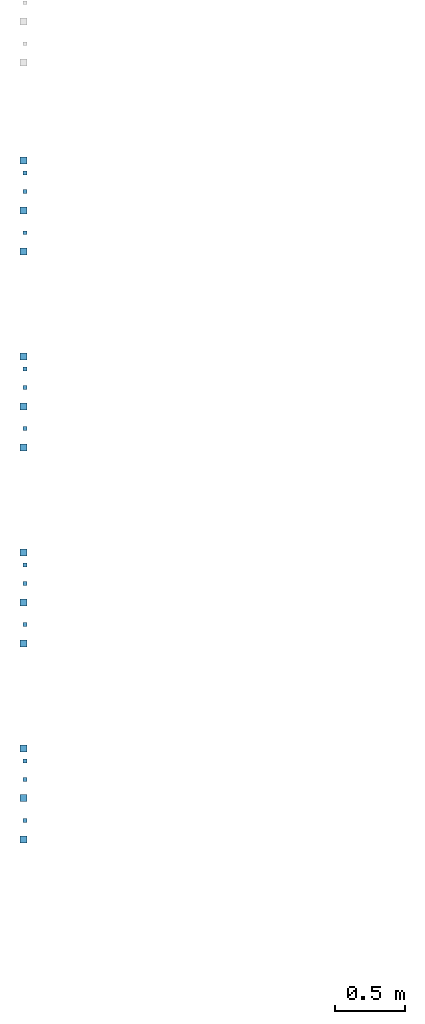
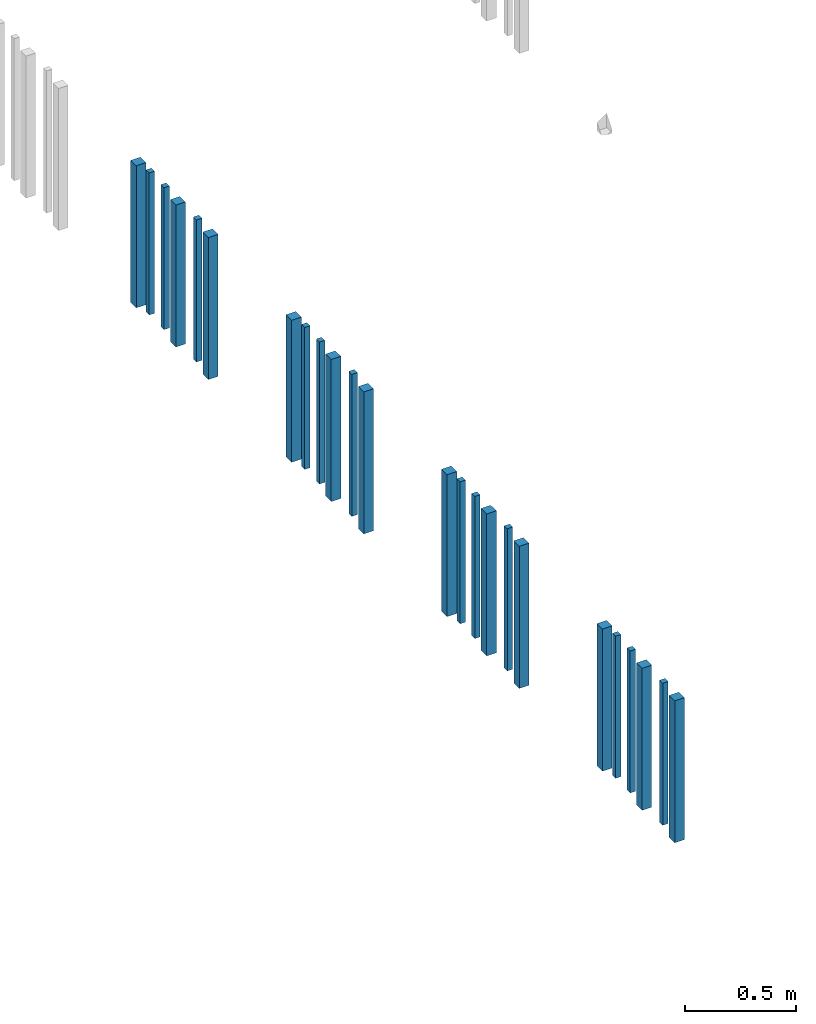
# One storey, part 83 of 124: 24 walls.
"""IFC2X3 building model written with IfcOpenShell, lengths in millimetres."""

from ifc_helpers import new_model, entity, si_unit, converted_unit, derived_unit, money_unit, direction, frame, origin_with_axes, place, context, subcontext, project, spatial, faceted_brep, material, type_object, element, save


model = new_model("IFC2X3")

# Units and contexts
model_context = context("Model", 3, precision=1e-05, world=origin_with_axes(), true_north=direction((0.0, 1.0)))
body_context = subcontext(model_context, "Body", "Model", "MODEL_VIEW")
ifc_project = project(units=[si_unit("LENGTHUNIT", "METRE", prefix="MILLI"), si_unit("AREAUNIT", "SQUARE_METRE"), si_unit("VOLUMEUNIT", "CUBIC_METRE"), converted_unit("PLANEANGLEUNIT", "DEGREE", entity("IfcPlaneAngleMeasure", 0.0174532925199), si_unit("PLANEANGLEUNIT", "RADIAN"), dimensions=[0, 0, 0, 0, 0, 0, 0]), si_unit("SOLIDANGLEUNIT", "STERADIAN"), money_unit("EUR"), converted_unit("TIMEUNIT", "Year", entity("IfcTimeMeasure", 31556926.0), si_unit("TIMEUNIT", "SECOND"), dimensions=[0, 0, 1, 0, 0, 0, 0]), si_unit("MASSUNIT", "GRAM", prefix="KILO"), si_unit("THERMODYNAMICTEMPERATUREUNIT", "DEGREE_CELSIUS"), si_unit("LUMINOUSINTENSITYUNIT", "LUMEN"), si_unit("ENERGYUNIT", "JOULE", prefix="MEGA"), derived_unit("THERMALCONDUCTANCEUNIT", [(si_unit("POWERUNIT", "WATT"), 1), (si_unit("LENGTHUNIT", "METRE"), -1), (si_unit("THERMODYNAMICTEMPERATUREUNIT", "KELVIN"), -1)]), derived_unit("SPECIFICHEATCAPACITYUNIT", [(si_unit("ENERGYUNIT", "JOULE"), 1), (si_unit("MASSUNIT", "GRAM", prefix="KILO"), -1), (si_unit("THERMODYNAMICTEMPERATUREUNIT", "KELVIN"), -1)]), derived_unit("MASSDENSITYUNIT", [(si_unit("MASSUNIT", "GRAM", prefix="KILO"), 1), (si_unit("VOLUMEUNIT", "CUBIC_METRE"), -1)])], contexts=[model_context])

# Site, building, storey
site_placement = place(None, origin_with_axes())
site = spatial("IfcSite", under=ifc_project, at=site_placement, Name="Site", CompositionType="ELEMENT")
building_placement = place(site_placement, origin_with_axes())
building = spatial("IfcBuilding", under=site, at=building_placement, Name="Building", CompositionType="ELEMENT")
storey_placement = place(building_placement, frame((0.0, 0.0, -1615.0), z_axis=(0.0, 0.0, 1.0), x_axis=(1.0, 0.0, 0.0)))
storey = spatial("IfcBuildingStorey", under=building, at=storey_placement, Name="0  korrus", CompositionType="ELEMENT", Elevation=-1615.0)

# Walls
ifc_material = material(Name="Site specified")
wall_type = type_object("IfcWallType", Name="Puitfassaadi ribistik", PredefinedType="NOTDEFINED")
for number, where, z_axis, x_axis, name in (
    (1, (122398.99997, 60676.0206584, 6039.99966101), (0.0, 0.0, 1.0), (-5.16795809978e-08, 1.0, 0.0), "Site specified"),
    (2, (122398.999977, 60543.0206593, 6039.99966101), (0.0, 0.0, 1.0), (-5.16795809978e-08, 1.0, 0.0), "Site specified"),
):
    element("IfcWall", number, at=place(storey_placement, frame(where, z_axis=z_axis, x_axis=x_axis)), inside=storey, type_object=wall_type, material=ifc_material, Name=name, context=body_context, shape_type="Brep", body=[
        faceted_brep([(14.0, 14.0, 781.000338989), (14.0, 14.0, 0.0), (-14.0, 14.0, 0.0), (-14.0, 14.0, 781.000338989), (14.0, -14.0, 781.000338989), (14.0, -14.0, 0.0), (-14.0, -14.0, 0.0), (-14.0, -14.0, 781.000338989)], [[[0, 1, 2, 3]], [[4, 5, 1, 0]], [[2, 1, 5, 6]], [[3, 2, 6, 7]], [[4, 0, 3, 7]], [[7, 6, 5, 4]]]),
    ])
for number, where, z_axis, x_axis, name in (
    (3, (122387.999965, 60765.0238283, 6039.99966101), (0.0, 0.0, 1.0), (-5.16795809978e-08, 1.0, 0.0), "Site specified"),
    (4, (122387.999984, 60409.018195, 6039.99966101), (0.0, 0.0, 1.0), (-5.16795809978e-08, 1.0, 0.0), "Site specified"),
):
    element("IfcWall", number, at=place(storey_placement, frame(where, z_axis=z_axis, x_axis=x_axis)), inside=storey, type_object=wall_type, material=ifc_material, Name=name, context=body_context, shape_type="Brep", body=[
        faceted_brep([(25.0, 25.0, 781.000338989), (25.0, 25.0, 0.0), (-25.0, 25.0, 0.0), (-25.0, 25.0, 781.000338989), (25.0, -25.0, 781.000338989), (25.0, -25.0, 0.0), (-25.0, -25.0, 0.0), (-25.0, -25.0, 781.000338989)], [[[0, 1, 2, 3]], [[4, 5, 1, 0]], [[2, 1, 5, 6]], [[3, 2, 6, 7]], [[4, 0, 3, 7]], [[7, 6, 5, 4]]]),
    ])
wall_1_placement = place(storey_placement, frame((122398.999992, 60250.0206882, 6039.99966101), z_axis=(0.0, 0.0, 1.0), x_axis=(-5.16795809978e-08, 1.0, 0.0)))
element("IfcWall", 5, at=wall_1_placement, inside=storey, type_object=wall_type, material=ifc_material, Name="Site specified", context=body_context, shape_type="Brep", body=[
    faceted_brep([(14.0, 14.0, 781.000338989), (14.0, 14.0, 0.0), (-14.0, 14.0, 0.0), (-14.0, 14.0, 781.000338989), (14.0, -14.0, 781.000338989), (14.0, -14.0, 0.0), (-14.0, -14.0, 0.0), (-14.0, -14.0, 781.000338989)], [[[0, 1, 2, 3]], [[4, 5, 1, 0]], [[2, 1, 5, 6]], [[3, 2, 6, 7]], [[4, 0, 3, 7]], [[7, 6, 5, 4]]]),
])
wall_2_placement = place(storey_placement, frame((122387.999999, 60115.0181971, 6039.99966101), z_axis=(0.0, 0.0, 1.0), x_axis=(-5.16795809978e-08, 1.0, 0.0)))
element("IfcWall", 6, at=wall_2_placement, inside=storey, type_object=wall_type, material=ifc_material, Name="Site specified", context=body_context, shape_type="Brep", body=[
    faceted_brep([(25.0, 25.0, 781.000338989), (25.0, 25.0, 0.0), (-25.0, 25.0, 0.0), (-25.0, 25.0, 781.000338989), (25.0, -25.0, 781.000338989), (25.0, -25.0, 0.0), (-25.0, -25.0, 0.0), (-25.0, -25.0, 781.000338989)], [[[0, 1, 2, 3]], [[4, 5, 1, 0]], [[2, 1, 5, 6]], [[3, 2, 6, 7]], [[4, 0, 3, 7]], [[7, 6, 5, 4]]]),
])
for number, where, z_axis, x_axis, name in (
    (7, (122398.99997, 59276.0206584, 6039.99966101), (0.0, 0.0, 1.0), (-5.16795809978e-08, 1.0, 0.0), "Site specified"),
    (8, (122398.999977, 59143.0206593, 6039.99966101), (0.0, 0.0, 1.0), (-5.16795809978e-08, 1.0, 0.0), "Site specified"),
):
    element("IfcWall", number, at=place(storey_placement, frame(where, z_axis=z_axis, x_axis=x_axis)), inside=storey, type_object=wall_type, material=ifc_material, Name=name, context=body_context, shape_type="Brep", body=[
        faceted_brep([(14.0, 14.0, 781.000338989), (14.0, 14.0, 0.0), (-14.0, 14.0, 0.0), (-14.0, 14.0, 781.000338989), (14.0, -14.0, 781.000338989), (14.0, -14.0, 0.0), (-14.0, -14.0, 0.0), (-14.0, -14.0, 781.000338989)], [[[0, 1, 2, 3]], [[4, 5, 1, 0]], [[2, 1, 5, 6]], [[3, 2, 6, 7]], [[4, 0, 3, 7]], [[7, 6, 5, 4]]]),
    ])
for number, where, z_axis, x_axis, name in (
    (9, (122387.999965, 59365.0238283, 6039.99966101), (0.0, 0.0, 1.0), (-5.16795809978e-08, 1.0, 0.0), "Site specified"),
    (10, (122387.999984, 59009.018195, 6039.99966101), (0.0, 0.0, 1.0), (-5.16795809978e-08, 1.0, 0.0), "Site specified"),
):
    element("IfcWall", number, at=place(storey_placement, frame(where, z_axis=z_axis, x_axis=x_axis)), inside=storey, type_object=wall_type, material=ifc_material, Name=name, context=body_context, shape_type="Brep", body=[
        faceted_brep([(25.0, 25.0, 781.000338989), (25.0, 25.0, 0.0), (-25.0, 25.0, 0.0), (-25.0, 25.0, 781.000338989), (25.0, -25.0, 781.000338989), (25.0, -25.0, 0.0), (-25.0, -25.0, 0.0), (-25.0, -25.0, 781.000338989)], [[[0, 1, 2, 3]], [[4, 5, 1, 0]], [[2, 1, 5, 6]], [[3, 2, 6, 7]], [[4, 0, 3, 7]], [[7, 6, 5, 4]]]),
    ])
wall_3_placement = place(storey_placement, frame((122398.999992, 58850.0206882, 6039.99966101), z_axis=(0.0, 0.0, 1.0), x_axis=(-5.16795809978e-08, 1.0, 0.0)))
element("IfcWall", 11, at=wall_3_placement, inside=storey, type_object=wall_type, material=ifc_material, Name="Site specified", context=body_context, shape_type="Brep", body=[
    faceted_brep([(14.0, 14.0, 781.000338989), (14.0, 14.0, 0.0), (-14.0, 14.0, 0.0), (-14.0, 14.0, 781.000338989), (14.0, -14.0, 781.000338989), (14.0, -14.0, 0.0), (-14.0, -14.0, 0.0), (-14.0, -14.0, 781.000338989)], [[[0, 1, 2, 3]], [[4, 5, 1, 0]], [[2, 1, 5, 6]], [[3, 2, 6, 7]], [[4, 0, 3, 7]], [[7, 6, 5, 4]]]),
])
for number, where, z_axis, x_axis, name in (
    (12, (122387.999999, 58715.0181971, 6039.99966101), (0.0, 0.0, 1.0), (-5.16795809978e-08, 1.0, 0.0), "Site specified"),
    (13, (122387.999999, 57315.0181971, 6039.99966101), (0.0, 0.0, 1.0), (-5.16795809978e-08, 1.0, 0.0), "Site specified"),
):
    element("IfcWall", number, at=place(storey_placement, frame(where, z_axis=z_axis, x_axis=x_axis)), inside=storey, type_object=wall_type, material=ifc_material, Name=name, context=body_context, shape_type="Brep", body=[
        faceted_brep([(25.0, 25.0, 781.000338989), (25.0, 25.0, 0.0), (-25.0, 25.0, 0.0), (-25.0, 25.0, 781.000338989), (25.0, -25.0, 781.000338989), (25.0, -25.0, 0.0), (-25.0, -25.0, 0.0), (-25.0, -25.0, 781.000338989)], [[[0, 1, 2, 3]], [[4, 5, 1, 0]], [[2, 1, 5, 6]], [[3, 2, 6, 7]], [[4, 0, 3, 7]], [[7, 6, 5, 4]]]),
    ])
for number, where, z_axis, x_axis, name in (
    (14, (122398.999992, 57450.0206882, 6039.99966101), (0.0, 0.0, 1.0), (-5.16795809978e-08, 1.0, 0.0), "Site specified"),
    (15, (122398.99997, 57876.0206584, 6039.99966101), (0.0, 0.0, 1.0), (-5.16795809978e-08, 1.0, 0.0), "Site specified"),
):
    element("IfcWall", number, at=place(storey_placement, frame(where, z_axis=z_axis, x_axis=x_axis)), inside=storey, type_object=wall_type, material=ifc_material, Name=name, context=body_context, shape_type="Brep", body=[
        faceted_brep([(14.0, 14.0, 781.000338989), (14.0, 14.0, 0.0), (-14.0, 14.0, 0.0), (-14.0, 14.0, 781.000338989), (14.0, -14.0, 781.000338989), (14.0, -14.0, 0.0), (-14.0, -14.0, 0.0), (-14.0, -14.0, 781.000338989)], [[[0, 1, 2, 3]], [[4, 5, 1, 0]], [[2, 1, 5, 6]], [[3, 2, 6, 7]], [[4, 0, 3, 7]], [[7, 6, 5, 4]]]),
    ])
wall_4_placement = place(storey_placement, frame((122387.999966, 57965.0238283, 6039.99966101), z_axis=(0.0, 0.0, 1.0), x_axis=(-5.16795809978e-08, 1.0, 0.0)))
element("IfcWall", 16, at=wall_4_placement, inside=storey, type_object=wall_type, material=ifc_material, Name="Site specified", context=body_context, shape_type="Brep", body=[
    faceted_brep([(25.0, 25.0, 781.000338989), (25.0, 25.0, 0.0), (-25.0, 25.0, 0.0), (-25.0, 25.0, 781.000338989), (25.0, -25.0, 781.000338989), (25.0, -25.0, 0.0), (-25.0, -25.0, 0.0), (-25.0, -25.0, 781.000338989)], [[[0, 1, 2, 3]], [[4, 5, 1, 0]], [[2, 1, 5, 6]], [[3, 2, 6, 7]], [[4, 0, 3, 7]], [[7, 6, 5, 4]]]),
])
wall_5_placement = place(storey_placement, frame((122398.999977, 57743.0206593, 6039.99966101), z_axis=(0.0, 0.0, 1.0), x_axis=(-5.16795809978e-08, 1.0, 0.0)))
element("IfcWall", 17, at=wall_5_placement, inside=storey, type_object=wall_type, material=ifc_material, Name="Site specified", context=body_context, shape_type="Brep", body=[
    faceted_brep([(14.0, 14.0, 781.000338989), (14.0, 14.0, 0.0), (-14.0, 14.0, 0.0), (-14.0, 14.0, 781.000338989), (14.0, -14.0, 781.000338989), (14.0, -14.0, 0.0), (-14.0, -14.0, 0.0), (-14.0, -14.0, 781.000338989)], [[[0, 1, 2, 3]], [[4, 5, 1, 0]], [[2, 1, 5, 6]], [[3, 2, 6, 7]], [[4, 0, 3, 7]], [[7, 6, 5, 4]]]),
])
for number, where, z_axis, x_axis, name in (
    (18, (122387.999984, 57609.018195, 6039.99966101), (0.0, 0.0, 1.0), (-5.16795809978e-08, 1.0, 0.0), "Site specified"),
    (19, (122387.999999, 61515.0185262, 6039.99966101), (0.0, 0.0, 1.0), (-5.16795809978e-08, 1.0, 0.0), "Site specified"),
):
    element("IfcWall", number, at=place(storey_placement, frame(where, z_axis=z_axis, x_axis=x_axis)), inside=storey, type_object=wall_type, material=ifc_material, Name=name, context=body_context, shape_type="Brep", body=[
        faceted_brep([(25.0, 25.0, 781.000338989), (25.0, 25.0, 0.0), (-25.0, 25.0, 0.0), (-25.0, 25.0, 781.000338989), (25.0, -25.0, 781.000338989), (25.0, -25.0, 0.0), (-25.0, -25.0, 0.0), (-25.0, -25.0, 781.000338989)], [[[0, 1, 2, 3]], [[4, 5, 1, 0]], [[2, 1, 5, 6]], [[3, 2, 6, 7]], [[4, 0, 3, 7]], [[7, 6, 5, 4]]]),
    ])
for number, where, z_axis, x_axis, name in (
    (20, (122398.999992, 61650.0210172, 6039.99966101), (0.0, 0.0, 1.0), (-5.16795809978e-08, 1.0, 0.0), "Site specified"),
    (21, (122398.99997, 62076.0209875, 6039.99966101), (0.0, 0.0, 1.0), (-5.16795809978e-08, 1.0, 0.0), "Site specified"),
    (22, (122398.999977, 61943.0209883, 6039.99966101), (0.0, 0.0, 1.0), (-5.16795809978e-08, 1.0, 0.0), "Site specified"),
):
    element("IfcWall", number, at=place(storey_placement, frame(where, z_axis=z_axis, x_axis=x_axis)), inside=storey, type_object=wall_type, material=ifc_material, Name=name, context=body_context, shape_type="Brep", body=[
        faceted_brep([(14.0, 14.0, 781.000338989), (14.0, 14.0, 0.0), (-14.0, 14.0, 0.0), (-14.0, 14.0, 781.000338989), (14.0, -14.0, 781.000338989), (14.0, -14.0, 0.0), (-14.0, -14.0, 0.0), (-14.0, -14.0, 781.000338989)], [[[0, 1, 2, 3]], [[4, 5, 1, 0]], [[2, 1, 5, 6]], [[3, 2, 6, 7]], [[4, 0, 3, 7]], [[7, 6, 5, 4]]]),
    ])
for number, where, z_axis, x_axis, name in (
    (23, (122387.999965, 62165.0241573, 6039.99966101), (0.0, 0.0, 1.0), (-5.16795809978e-08, 1.0, 0.0), "Site specified"),
    (24, (122387.999984, 61809.018524, 6039.99966101), (0.0, 0.0, 1.0), (-5.16795809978e-08, 1.0, 0.0), "Site specified"),
):
    element("IfcWall", number, at=place(storey_placement, frame(where, z_axis=z_axis, x_axis=x_axis)), inside=storey, type_object=wall_type, material=ifc_material, Name=name, context=body_context, shape_type="Brep", body=[
        faceted_brep([(25.0, 25.0, 781.000338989), (25.0, 25.0, 0.0), (-25.0, 25.0, 0.0), (-25.0, 25.0, 781.000338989), (25.0, -25.0, 781.000338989), (25.0, -25.0, 0.0), (-25.0, -25.0, 0.0), (-25.0, -25.0, 781.000338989)], [[[0, 1, 2, 3]], [[4, 5, 1, 0]], [[2, 1, 5, 6]], [[3, 2, 6, 7]], [[4, 0, 3, 7]], [[7, 6, 5, 4]]]),
    ])

save(model, "model.ifc")
